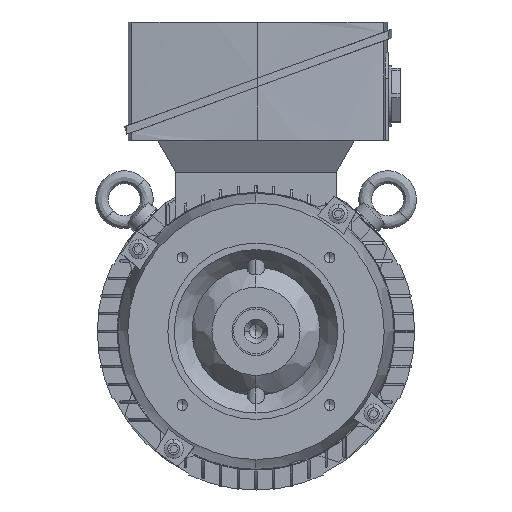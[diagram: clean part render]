
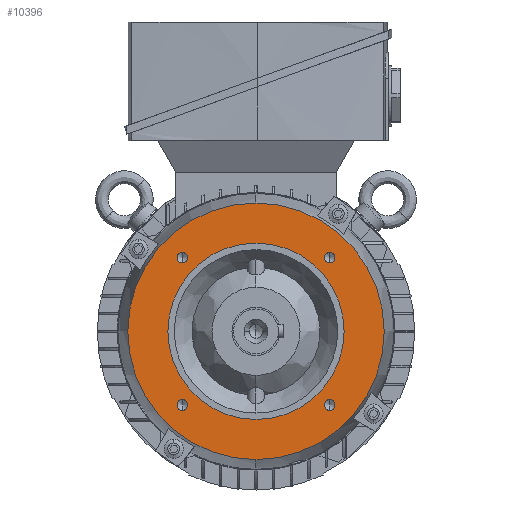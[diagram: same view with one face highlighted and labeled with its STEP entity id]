
A CAD part, left-side view. The second image highlights one B-rep face of the part: STEP entity #10396.
In plain terms, the highlighted planar face has unit normal (-1, 0, 0).
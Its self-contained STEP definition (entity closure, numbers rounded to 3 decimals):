
#112 = CIRCLE ( 'NONE', #29815, 55. ) ;
#1033 = EDGE_LOOP ( 'NONE', ( #34827, #22626 ) ) ;
#1237 = DIRECTION ( 'NONE',  ( 0., 0., -1. ) ) ;
#1285 = DIRECTION ( 'NONE',  ( 1., 0., 0. ) ) ;
#1291 = CARTESIAN_POINT ( 'NONE',  ( -40.5, 45.962, -45.962 ) ) ;
#1544 = EDGE_CURVE ( 'NONE', #32594, #38472, #7148, .T. ) ;
#2108 = VERTEX_POINT ( 'NONE', #19650 ) ;
#2135 = DIRECTION ( 'NONE',  ( 0., 0., 1. ) ) ;
#2145 = DIRECTION ( 'NONE',  ( -1., 0., 0. ) ) ;
#2190 = CARTESIAN_POINT ( 'NONE',  ( -40.5, 0., 67.5 ) ) ;
#2486 = PLANE ( 'NONE',  #34282 ) ;
#2810 = AXIS2_PLACEMENT_3D ( 'NONE', #18760, #18679, #18614 ) ;
#3329 = DIRECTION ( 'NONE',  ( 0., 0., 1. ) ) ;
#3366 = DIRECTION ( 'NONE',  ( 1., 0., 0. ) ) ;
#3422 = CARTESIAN_POINT ( 'NONE',  ( -40.5, 0., 0. ) ) ;
#3654 = EDGE_CURVE ( 'NONE', #12368, #32102, #31777, .T. ) ;
#3858 = VERTEX_POINT ( 'NONE', #30638 ) ;
#4522 = CARTESIAN_POINT ( 'NONE',  ( -40.5, 0., 80. ) ) ;
#5275 = VERTEX_POINT ( 'NONE', #27580 ) ;
#5389 = EDGE_CURVE ( 'NONE', #10187, #3858, #12310, .T. ) ;
#5922 = CIRCLE ( 'NONE', #15245, 3.325 ) ;
#5980 = CIRCLE ( 'NONE', #18499, 3.325 ) ;
#6143 = CIRCLE ( 'NONE', #2810, 80. ) ;
#6171 = EDGE_CURVE ( 'NONE', #21931, #8942, #112, .T. ) ;
#6477 = EDGE_CURVE ( 'NONE', #7557, #2108, #19769, .T. ) ;
#6608 = CARTESIAN_POINT ( 'NONE',  ( -40.5, 0., -55. ) ) ;
#6753 = CARTESIAN_POINT ( 'NONE',  ( -40.5, -45.962, 42.637 ) ) ;
#7001 = EDGE_CURVE ( 'NONE', #8942, #21931, #30044, .T. ) ;
#7148 = CIRCLE ( 'NONE', #9017, 80. ) ;
#7557 = VERTEX_POINT ( 'NONE', #15551 ) ;
#7860 = EDGE_CURVE ( 'NONE', #5275, #27311, #5922, .T. ) ;
#7940 = DIRECTION ( 'NONE',  ( 0., 0., -1. ) ) ;
#7985 = CARTESIAN_POINT ( 'NONE',  ( -40.5, 0., 0. ) ) ;
#8297 = EDGE_CURVE ( 'NONE', #32102, #12368, #18812, .T. ) ;
#8942 = VERTEX_POINT ( 'NONE', #31493 ) ;
#9017 = AXIS2_PLACEMENT_3D ( 'NONE', #7985, #24109, #7940 ) ;
#9810 = DIRECTION ( 'NONE',  ( 0., 0., -1. ) ) ;
#9816 = DIRECTION ( 'NONE',  ( 1., 0., 0. ) ) ;
#9848 = CARTESIAN_POINT ( 'NONE',  ( -40.5, -45.962, -45.962 ) ) ;
#10187 = VERTEX_POINT ( 'NONE', #6753 ) ;
#10396 = ADVANCED_FACE ( 'NONE', ( #15816, #16680, #16983, #16176, #15718, #15440 ), #2486, .T. ) ;
#10888 = CIRCLE ( 'NONE', #19454, 3.325 ) ;
#11516 = CARTESIAN_POINT ( 'NONE',  ( -40.5, -45.962, -45.962 ) ) ;
#11608 = DIRECTION ( 'NONE',  ( 1., 0., 0. ) ) ;
#11691 = DIRECTION ( 'NONE',  ( 0., 0., -1. ) ) ;
#12310 = CIRCLE ( 'NONE', #30462, 3.325 ) ;
#12330 = AXIS2_PLACEMENT_3D ( 'NONE', #1291, #1285, #1237 ) ;
#12368 = VERTEX_POINT ( 'NONE', #25257 ) ;
#13054 = AXIS2_PLACEMENT_3D ( 'NONE', #37912, #37817, #37793 ) ;
#13486 = CARTESIAN_POINT ( 'NONE',  ( -40.5, -45.962, 45.962 ) ) ;
#13533 = DIRECTION ( 'NONE',  ( 1., 0., 0. ) ) ;
#13606 = DIRECTION ( 'NONE',  ( 0., 0., -1. ) ) ;
#14244 = CARTESIAN_POINT ( 'NONE',  ( -40.5, -45.962, -49.287 ) ) ;
#15245 = AXIS2_PLACEMENT_3D ( 'NONE', #9848, #9816, #9810 ) ;
#15440 = FACE_BOUND ( 'NONE', #30723, .T. ) ;
#15551 = CARTESIAN_POINT ( 'NONE',  ( -40.5, 45.962, 49.287 ) ) ;
#15693 = EDGE_CURVE ( 'NONE', #27311, #5275, #5980, .T. ) ;
#15699 = CARTESIAN_POINT ( 'NONE',  ( -40.5, 45.962, 45.962 ) ) ;
#15717 = AXIS2_PLACEMENT_3D ( 'NONE', #13486, #13533, #13606 ) ;
#15718 = FACE_BOUND ( 'NONE', #30651, .T. ) ;
#15816 = FACE_BOUND ( 'NONE', #1033, .T. ) ;
#16176 = FACE_BOUND ( 'NONE', #35545, .T. ) ;
#16266 = DIRECTION ( 'NONE',  ( 1., 0., 0. ) ) ;
#16311 = DIRECTION ( 'NONE',  ( 0., 0., -1. ) ) ;
#16680 = FACE_OUTER_BOUND ( 'NONE', #32104, .T. ) ;
#16983 = FACE_BOUND ( 'NONE', #25719, .T. ) ;
#18499 = AXIS2_PLACEMENT_3D ( 'NONE', #11516, #11608, #11691 ) ;
#18614 = DIRECTION ( 'NONE',  ( 0., 0., -1. ) ) ;
#18679 = DIRECTION ( 'NONE',  ( 1., 0., 0. ) ) ;
#18760 = CARTESIAN_POINT ( 'NONE',  ( -40.5, 0., 0. ) ) ;
#18812 = CIRCLE ( 'NONE', #12330, 3.325 ) ;
#19409 = ORIENTED_EDGE ( 'NONE', *, *, #25053, .T. ) ;
#19454 = AXIS2_PLACEMENT_3D ( 'NONE', #15699, #16266, #16311 ) ;
#19650 = CARTESIAN_POINT ( 'NONE',  ( -40.5, 45.962, 42.637 ) ) ;
#19769 = CIRCLE ( 'NONE', #29094, 3.325 ) ;
#21075 = EDGE_CURVE ( 'NONE', #38472, #32594, #6143, .T. ) ;
#21931 = VERTEX_POINT ( 'NONE', #6608 ) ;
#22626 = ORIENTED_EDGE ( 'NONE', *, *, #6171, .T. ) ;
#23025 = CIRCLE ( 'NONE', #15717, 3.325 ) ;
#24109 = DIRECTION ( 'NONE',  ( 1., 0., 0. ) ) ;
#24127 = ORIENTED_EDGE ( 'NONE', *, *, #21075, .F. ) ;
#24795 = DIRECTION ( 'NONE',  ( 0., 0., -1. ) ) ;
#24800 = DIRECTION ( 'NONE',  ( 1., 0., 0. ) ) ;
#24835 = CARTESIAN_POINT ( 'NONE',  ( -40.5, -45.962, 45.962 ) ) ;
#25053 = EDGE_CURVE ( 'NONE', #3858, #10187, #23025, .T. ) ;
#25257 = CARTESIAN_POINT ( 'NONE',  ( -40.5, 45.962, -42.637 ) ) ;
#25719 = EDGE_LOOP ( 'NONE', ( #38467, #37571 ) ) ;
#26301 = ORIENTED_EDGE ( 'NONE', *, *, #8297, .T. ) ;
#26535 = DIRECTION ( 'NONE',  ( 0., 0., 1. ) ) ;
#26562 = DIRECTION ( 'NONE',  ( 1., 0., 0. ) ) ;
#26574 = CARTESIAN_POINT ( 'NONE',  ( -40.5, 0., 0. ) ) ;
#27311 = VERTEX_POINT ( 'NONE', #14244 ) ;
#27580 = CARTESIAN_POINT ( 'NONE',  ( -40.5, -45.962, -42.637 ) ) ;
#27844 = AXIS2_PLACEMENT_3D ( 'NONE', #26574, #26562, #26535 ) ;
#28465 = ORIENTED_EDGE ( 'NONE', *, *, #5389, .T. ) ;
#28957 = CARTESIAN_POINT ( 'NONE',  ( -40.5, 0., -80. ) ) ;
#29094 = AXIS2_PLACEMENT_3D ( 'NONE', #36555, #36511, #36463 ) ;
#29282 = EDGE_CURVE ( 'NONE', #2108, #7557, #10888, .T. ) ;
#29379 = ORIENTED_EDGE ( 'NONE', *, *, #3654, .T. ) ;
#29406 = CARTESIAN_POINT ( 'NONE',  ( -40.5, 45.962, -49.287 ) ) ;
#29815 = AXIS2_PLACEMENT_3D ( 'NONE', #3422, #3366, #3329 ) ;
#29831 = ORIENTED_EDGE ( 'NONE', *, *, #15693, .T. ) ;
#30044 = CIRCLE ( 'NONE', #27844, 55. ) ;
#30164 = ORIENTED_EDGE ( 'NONE', *, *, #7860, .T. ) ;
#30462 = AXIS2_PLACEMENT_3D ( 'NONE', #24835, #24800, #24795 ) ;
#30638 = CARTESIAN_POINT ( 'NONE',  ( -40.5, -45.962, 49.287 ) ) ;
#30651 = EDGE_LOOP ( 'NONE', ( #29831, #30164 ) ) ;
#30723 = EDGE_LOOP ( 'NONE', ( #28465, #19409 ) ) ;
#31493 = CARTESIAN_POINT ( 'NONE',  ( -40.5, 0., 55. ) ) ;
#31777 = CIRCLE ( 'NONE', #13054, 3.325 ) ;
#32102 = VERTEX_POINT ( 'NONE', #29406 ) ;
#32104 = EDGE_LOOP ( 'NONE', ( #24127, #35273 ) ) ;
#32594 = VERTEX_POINT ( 'NONE', #4522 ) ;
#34282 = AXIS2_PLACEMENT_3D ( 'NONE', #2190, #2145, #2135 ) ;
#34827 = ORIENTED_EDGE ( 'NONE', *, *, #7001, .T. ) ;
#35273 = ORIENTED_EDGE ( 'NONE', *, *, #1544, .F. ) ;
#35545 = EDGE_LOOP ( 'NONE', ( #26301, #29379 ) ) ;
#36463 = DIRECTION ( 'NONE',  ( 0., 0., -1. ) ) ;
#36511 = DIRECTION ( 'NONE',  ( 1., 0., 0. ) ) ;
#36555 = CARTESIAN_POINT ( 'NONE',  ( -40.5, 45.962, 45.962 ) ) ;
#37571 = ORIENTED_EDGE ( 'NONE', *, *, #6477, .T. ) ;
#37793 = DIRECTION ( 'NONE',  ( 0., 0., -1. ) ) ;
#37817 = DIRECTION ( 'NONE',  ( 1., 0., 0. ) ) ;
#37912 = CARTESIAN_POINT ( 'NONE',  ( -40.5, 45.962, -45.962 ) ) ;
#38467 = ORIENTED_EDGE ( 'NONE', *, *, #29282, .T. ) ;
#38472 = VERTEX_POINT ( 'NONE', #28957 ) ;
